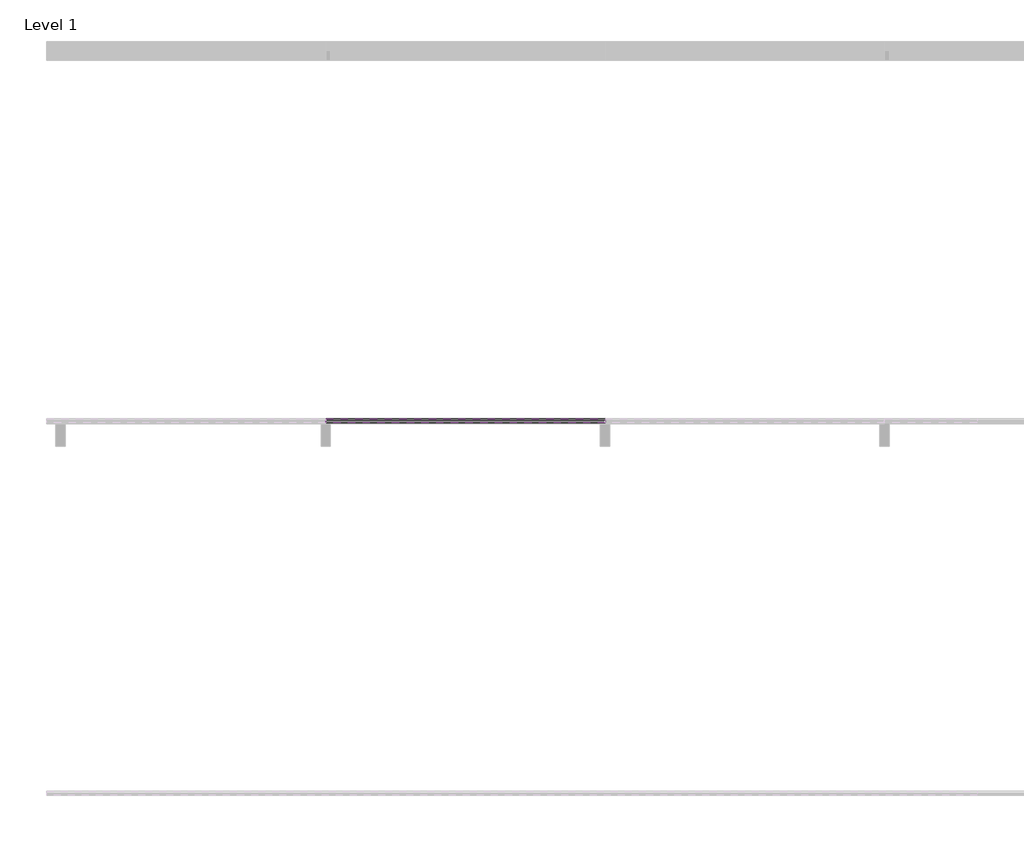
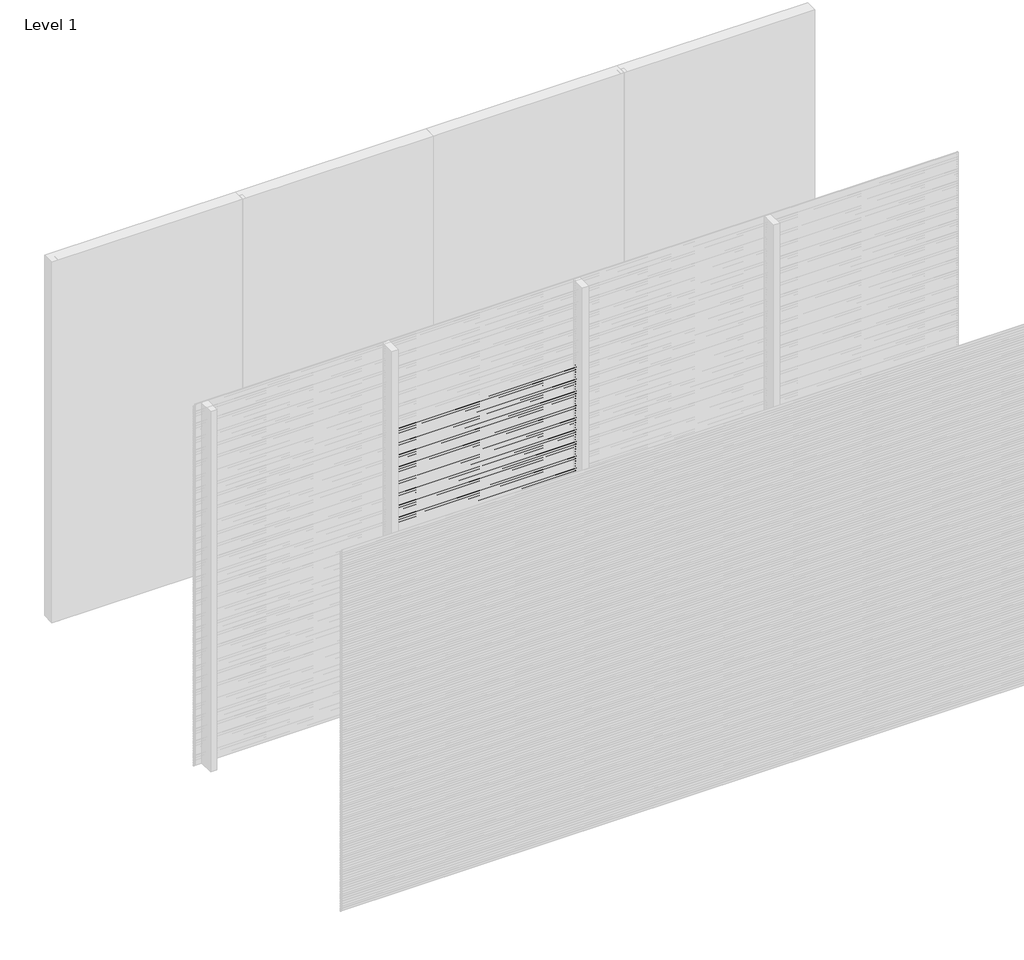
# One storey, part 5 of 31: 97 proxies.
"""IFC4 building model written with IfcOpenShell, lengths in millimetres."""

from ifc_helpers import new_model, si_unit, frame, origin, place, context, project, spatial, polyline, outline, extrude, element, save

model = new_model("IFC4")

# Units and contexts
model_context = context("Model", 3, world=origin())
ifc_project = project(units=[si_unit("LENGTHUNIT", "METRE", prefix="MILLI")], contexts=[model_context])

# Site, building, storey
site = spatial("IfcSite", under=ifc_project)
building = spatial("IfcBuilding", under=site)
storey = spatial("IfcBuildingStorey", under=building, Name="Level 1", Elevation=0.0)

# Proxies
placement = place(None, origin())
element("IfcBuildingElementProxy", 1, Name="Wall Sweeps", at=placement, inside=storey, context=model_context, shape_type="SweptSolid", body=[
    extrude(outline(polyline([(-17995.0, 2300.0), (-17995.0, 2288.942893), (-17976.0, 2273.0), (-17976.0, 2260.0), (-17997.0, 2277.6210923), (-17997.0, 2300.0), (-17995.0, 2300.0)])), frame((1500.0000002, 0.0, 0.0), z_axis=(1.0, 0.0, 0.0), x_axis=(0.0, 1.0, 0.0)), (0.0, 0.0, 1.0), 1499.9999998),
])
element("IfcBuildingElementProxy", 2, Name="Wall Sweeps", at=placement, inside=storey, context=model_context, shape_type="SweptSolid", body=[
    extrude(outline(polyline([(-17995.0, 2280.0), (-17995.0, 2268.942893), (-17976.0, 2253.0), (-17976.0, 2240.0), (-17997.0, 2257.6210923), (-17997.0, 2280.0), (-17995.0, 2280.0)])), frame((1500.0000002, 0.0, 0.0), z_axis=(1.0, 0.0, 0.0), x_axis=(0.0, 1.0, 0.0)), (0.0, 0.0, 1.0), 1499.9999998),
])
element("IfcBuildingElementProxy", 3, Name="Wall Sweeps", at=placement, inside=storey, context=model_context, shape_type="SweptSolid", body=[
    extrude(outline(polyline([(-17995.0, 2260.0), (-17995.0, 2248.942893), (-17976.0, 2233.0), (-17976.0, 2220.0), (-17997.0, 2237.6210923), (-17997.0, 2260.0), (-17995.0, 2260.0)])), frame((1500.0000002, 0.0, 0.0), z_axis=(1.0, 0.0, 0.0), x_axis=(0.0, 1.0, 0.0)), (0.0, 0.0, 1.0), 1499.9999998),
])
element("IfcBuildingElementProxy", 4, Name="Wall Sweeps", at=placement, inside=storey, context=model_context, shape_type="SweptSolid", body=[
    extrude(outline(polyline([(-17995.0, 2240.0), (-17995.0, 2228.942893), (-17976.0, 2213.0), (-17976.0, 2200.0), (-17997.0, 2217.6210923), (-17997.0, 2240.0), (-17995.0, 2240.0)])), frame((1500.0000002, 0.0, 0.0), z_axis=(1.0, 0.0, 0.0), x_axis=(0.0, 1.0, 0.0)), (0.0, 0.0, 1.0), 1499.9999998),
])
element("IfcBuildingElementProxy", 5, Name="Wall Sweeps", at=placement, inside=storey, context=model_context, shape_type="SweptSolid", body=[
    extrude(outline(polyline([(-17995.0, 2220.0), (-17995.0, 2208.942893), (-17976.0, 2193.0), (-17976.0, 2180.0), (-17997.0, 2197.6210923), (-17997.0, 2220.0), (-17995.0, 2220.0)])), frame((1500.0000002, 0.0, 0.0), z_axis=(1.0, 0.0, 0.0), x_axis=(0.0, 1.0, 0.0)), (0.0, 0.0, 1.0), 1499.9999998),
])
element("IfcBuildingElementProxy", 6, Name="Wall Sweeps", at=placement, inside=storey, context=model_context, shape_type="SweptSolid", body=[
    extrude(outline(polyline([(-17995.0, 2200.0), (-17995.0, 2188.942893), (-17976.0, 2173.0), (-17976.0, 2160.0), (-17997.0, 2177.6210923), (-17997.0, 2200.0), (-17995.0, 2200.0)])), frame((1500.0000002, 0.0, 0.0), z_axis=(1.0, 0.0, 0.0), x_axis=(0.0, 1.0, 0.0)), (0.0, 0.0, 1.0), 1499.9999998),
])
element("IfcBuildingElementProxy", 7, Name="Wall Sweeps", at=placement, inside=storey, context=model_context, shape_type="SweptSolid", body=[
    extrude(outline(polyline([(-17995.0, 2180.0), (-17995.0, 2168.942893), (-17976.0, 2153.0), (-17976.0, 2140.0), (-17997.0, 2157.6210923), (-17997.0, 2180.0), (-17995.0, 2180.0)])), frame((1500.0000002, 0.0, 0.0), z_axis=(1.0, 0.0, 0.0), x_axis=(0.0, 1.0, 0.0)), (0.0, 0.0, 1.0), 1499.9999998),
])
element("IfcBuildingElementProxy", 8, Name="Wall Sweeps", at=placement, inside=storey, context=model_context, shape_type="SweptSolid", body=[
    extrude(outline(polyline([(-17995.0, 2160.0), (-17995.0, 2148.942893), (-17976.0, 2133.0), (-17976.0, 2120.0), (-17997.0, 2137.6210923), (-17997.0, 2160.0), (-17995.0, 2160.0)])), frame((1500.0000002, 0.0, 0.0), z_axis=(1.0, 0.0, 0.0), x_axis=(0.0, 1.0, 0.0)), (0.0, 0.0, 1.0), 1499.9999998),
])
element("IfcBuildingElementProxy", 9, Name="Wall Sweeps", at=placement, inside=storey, context=model_context, shape_type="SweptSolid", body=[
    extrude(outline(polyline([(-17995.0, 2140.0), (-17995.0, 2128.942893), (-17976.0, 2113.0), (-17976.0, 2100.0), (-17997.0, 2117.6210923), (-17997.0, 2140.0), (-17995.0, 2140.0)])), frame((1500.0000002, 0.0, 0.0), z_axis=(1.0, 0.0, 0.0), x_axis=(0.0, 1.0, 0.0)), (0.0, 0.0, 1.0), 1499.9999998),
])
element("IfcBuildingElementProxy", 10, Name="Wall Sweeps", at=placement, inside=storey, context=model_context, shape_type="SweptSolid", body=[
    extrude(outline(polyline([(-17995.0, 2120.0), (-17995.0, 2108.942893), (-17976.0, 2093.0), (-17976.0, 2080.0), (-17997.0, 2097.6210923), (-17997.0, 2120.0), (-17995.0, 2120.0)])), frame((1500.0000002, 0.0, 0.0), z_axis=(1.0, 0.0, 0.0), x_axis=(0.0, 1.0, 0.0)), (0.0, 0.0, 1.0), 1499.9999998),
])
element("IfcBuildingElementProxy", 11, Name="Wall Sweeps", at=placement, inside=storey, context=model_context, shape_type="SweptSolid", body=[
    extrude(outline(polyline([(-17995.0, 2100.0), (-17995.0, 2088.942893), (-17976.0, 2073.0), (-17976.0, 2060.0), (-17997.0, 2077.6210923), (-17997.0, 2100.0), (-17995.0, 2100.0)])), frame((1500.0000002, 0.0, 0.0), z_axis=(1.0, 0.0, 0.0), x_axis=(0.0, 1.0, 0.0)), (0.0, 0.0, 1.0), 1499.9999998),
])
element("IfcBuildingElementProxy", 12, Name="Wall Sweeps", at=placement, inside=storey, context=model_context, shape_type="SweptSolid", body=[
    extrude(outline(polyline([(-17995.0, 2080.0), (-17995.0, 2068.942893), (-17976.0, 2053.0), (-17976.0, 2040.0), (-17997.0, 2057.6210923), (-17997.0, 2080.0), (-17995.0, 2080.0)])), frame((1500.0000002, 0.0, 0.0), z_axis=(1.0, 0.0, 0.0), x_axis=(0.0, 1.0, 0.0)), (0.0, 0.0, 1.0), 1499.9999998),
])
element("IfcBuildingElementProxy", 13, Name="Wall Sweeps", at=placement, inside=storey, context=model_context, shape_type="SweptSolid", body=[
    extrude(outline(polyline([(-17995.0, 2060.0), (-17995.0, 2048.942893), (-17976.0, 2033.0), (-17976.0, 2020.0), (-17997.0, 2037.6210923), (-17997.0, 2060.0), (-17995.0, 2060.0)])), frame((1500.0000002, 0.0, 0.0), z_axis=(1.0, 0.0, 0.0), x_axis=(0.0, 1.0, 0.0)), (0.0, 0.0, 1.0), 1499.9999998),
])
element("IfcBuildingElementProxy", 14, Name="Wall Sweeps", at=placement, inside=storey, context=model_context, shape_type="SweptSolid", body=[
    extrude(outline(polyline([(-17995.0, 2040.0), (-17995.0, 2028.942893), (-17976.0, 2013.0), (-17976.0, 2000.0), (-17997.0, 2017.6210923), (-17997.0, 2040.0), (-17995.0, 2040.0)])), frame((1500.0000002, 0.0, 0.0), z_axis=(1.0, 0.0, 0.0), x_axis=(0.0, 1.0, 0.0)), (0.0, 0.0, 1.0), 1499.9999998),
])
element("IfcBuildingElementProxy", 15, Name="Wall Sweeps", at=placement, inside=storey, context=model_context, shape_type="SweptSolid", body=[
    extrude(outline(polyline([(-17995.0, 2020.0), (-17995.0, 2008.942893), (-17976.0, 1993.0), (-17976.0, 1980.0), (-17997.0, 1997.6210923), (-17997.0, 2020.0), (-17995.0, 2020.0)])), frame((1500.0000002, 0.0, 0.0), z_axis=(1.0, 0.0, 0.0), x_axis=(0.0, 1.0, 0.0)), (0.0, 0.0, 1.0), 1499.9999998),
])
element("IfcBuildingElementProxy", 16, Name="Wall Sweeps", at=placement, inside=storey, context=model_context, shape_type="SweptSolid", body=[
    extrude(outline(polyline([(-17995.0, 2000.0), (-17995.0, 1988.942893), (-17976.0, 1973.0), (-17976.0, 1960.0), (-17997.0, 1977.6210923), (-17997.0, 2000.0), (-17995.0, 2000.0)])), frame((1500.0000002, 0.0, 0.0), z_axis=(1.0, 0.0, 0.0), x_axis=(0.0, 1.0, 0.0)), (0.0, 0.0, 1.0), 1499.9999998),
])
element("IfcBuildingElementProxy", 17, Name="Wall Sweeps", at=placement, inside=storey, context=model_context, shape_type="SweptSolid", body=[
    extrude(outline(polyline([(-17995.0, 1980.0), (-17995.0, 1968.942893), (-17976.0, 1953.0), (-17976.0, 1940.0), (-17997.0, 1957.6210923), (-17997.0, 1980.0), (-17995.0, 1980.0)])), frame((1500.0000002, 0.0, 0.0), z_axis=(1.0, 0.0, 0.0), x_axis=(0.0, 1.0, 0.0)), (0.0, 0.0, 1.0), 1499.9999998),
])
element("IfcBuildingElementProxy", 18, Name="Wall Sweeps", at=placement, inside=storey, context=model_context, shape_type="SweptSolid", body=[
    extrude(outline(polyline([(-17995.0, 1960.0), (-17995.0, 1948.942893), (-17976.0, 1933.0), (-17976.0, 1920.0), (-17997.0, 1937.6210923), (-17997.0, 1960.0), (-17995.0, 1960.0)])), frame((1500.0000002, 0.0, 0.0), z_axis=(1.0, 0.0, 0.0), x_axis=(0.0, 1.0, 0.0)), (0.0, 0.0, 1.0), 1499.9999998),
])
element("IfcBuildingElementProxy", 19, Name="Wall Sweeps", at=placement, inside=storey, context=model_context, shape_type="SweptSolid", body=[
    extrude(outline(polyline([(-17995.0, 1940.0), (-17995.0, 1928.942893), (-17976.0, 1913.0), (-17976.0, 1900.0), (-17997.0, 1917.6210923), (-17997.0, 1940.0), (-17995.0, 1940.0)])), frame((1500.0000002, 0.0, 0.0), z_axis=(1.0, 0.0, 0.0), x_axis=(0.0, 1.0, 0.0)), (0.0, 0.0, 1.0), 1499.9999998),
])
element("IfcBuildingElementProxy", 20, Name="Wall Sweeps", at=placement, inside=storey, context=model_context, shape_type="SweptSolid", body=[
    extrude(outline(polyline([(-17995.0, 1920.0), (-17995.0, 1908.942893), (-17976.0, 1893.0), (-17976.0, 1880.0), (-17997.0, 1897.6210923), (-17997.0, 1920.0), (-17995.0, 1920.0)])), frame((1500.0000002, 0.0, 0.0), z_axis=(1.0, 0.0, 0.0), x_axis=(0.0, 1.0, 0.0)), (0.0, 0.0, 1.0), 1499.9999998),
])
element("IfcBuildingElementProxy", 21, Name="Wall Sweeps", at=placement, inside=storey, context=model_context, shape_type="SweptSolid", body=[
    extrude(outline(polyline([(-17995.0, 1900.0), (-17995.0, 1888.942893), (-17976.0, 1873.0), (-17976.0, 1860.0), (-17997.0, 1877.6210923), (-17997.0, 1900.0), (-17995.0, 1900.0)])), frame((1500.0000002, 0.0, 0.0), z_axis=(1.0, 0.0, 0.0), x_axis=(0.0, 1.0, 0.0)), (0.0, 0.0, 1.0), 1499.9999998),
])
element("IfcBuildingElementProxy", 22, Name="Wall Sweeps", at=placement, inside=storey, context=model_context, shape_type="SweptSolid", body=[
    extrude(outline(polyline([(-17995.0, 1880.0), (-17995.0, 1868.942893), (-17976.0, 1853.0), (-17976.0, 1840.0), (-17997.0, 1857.6210923), (-17997.0, 1880.0), (-17995.0, 1880.0)])), frame((1500.0000002, 0.0, 0.0), z_axis=(1.0, 0.0, 0.0), x_axis=(0.0, 1.0, 0.0)), (0.0, 0.0, 1.0), 1499.9999998),
])
element("IfcBuildingElementProxy", 23, Name="Wall Sweeps", at=placement, inside=storey, context=model_context, shape_type="SweptSolid", body=[
    extrude(outline(polyline([(-17995.0, 1860.0), (-17995.0, 1848.942893), (-17976.0, 1833.0), (-17976.0, 1820.0), (-17997.0, 1837.6210923), (-17997.0, 1860.0), (-17995.0, 1860.0)])), frame((1500.0000002, 0.0, 0.0), z_axis=(1.0, 0.0, 0.0), x_axis=(0.0, 1.0, 0.0)), (0.0, 0.0, 1.0), 1499.9999998),
])
element("IfcBuildingElementProxy", 24, Name="Wall Sweeps", at=placement, inside=storey, context=model_context, shape_type="SweptSolid", body=[
    extrude(outline(polyline([(-17995.0, 1840.0), (-17995.0, 1828.942893), (-17976.0, 1813.0), (-17976.0, 1800.0), (-17997.0, 1817.6210923), (-17997.0, 1840.0), (-17995.0, 1840.0)])), frame((1500.0000002, 0.0, 0.0), z_axis=(1.0, 0.0, 0.0), x_axis=(0.0, 1.0, 0.0)), (0.0, 0.0, 1.0), 1499.9999998),
])
element("IfcBuildingElementProxy", 25, Name="Wall Sweeps", at=placement, inside=storey, context=model_context, shape_type="SweptSolid", body=[
    extrude(outline(polyline([(-17995.0, 1820.0), (-17995.0, 1808.942893), (-17976.0, 1793.0), (-17976.0, 1780.0), (-17997.0, 1797.6210923), (-17997.0, 1820.0), (-17995.0, 1820.0)])), frame((1500.0000002, 0.0, 0.0), z_axis=(1.0, 0.0, 0.0), x_axis=(0.0, 1.0, 0.0)), (0.0, 0.0, 1.0), 1499.9999998),
])
element("IfcBuildingElementProxy", 26, Name="Wall Sweeps", at=placement, inside=storey, context=model_context, shape_type="SweptSolid", body=[
    extrude(outline(polyline([(-17995.0, 1800.0), (-17995.0, 1788.942893), (-17976.0, 1773.0), (-17976.0, 1760.0), (-17997.0, 1777.6210923), (-17997.0, 1800.0), (-17995.0, 1800.0)])), frame((1500.0000002, 0.0, 0.0), z_axis=(1.0, 0.0, 0.0), x_axis=(0.0, 1.0, 0.0)), (0.0, 0.0, 1.0), 1499.9999998),
])
element("IfcBuildingElementProxy", 27, Name="Wall Sweeps", at=placement, inside=storey, context=model_context, shape_type="SweptSolid", body=[
    extrude(outline(polyline([(-17995.0, 1780.0), (-17995.0, 1768.942893), (-17976.0, 1753.0), (-17976.0, 1740.0), (-17997.0, 1757.6210923), (-17997.0, 1780.0), (-17995.0, 1780.0)])), frame((1500.0000002, 0.0, 0.0), z_axis=(1.0, 0.0, 0.0), x_axis=(0.0, 1.0, 0.0)), (0.0, 0.0, 1.0), 1499.9999998),
])
element("IfcBuildingElementProxy", 28, Name="Wall Sweeps", at=placement, inside=storey, context=model_context, shape_type="SweptSolid", body=[
    extrude(outline(polyline([(-17995.0, 1760.0), (-17995.0, 1748.942893), (-17976.0, 1733.0), (-17976.0, 1720.0), (-17997.0, 1737.6210923), (-17997.0, 1760.0), (-17995.0, 1760.0)])), frame((1500.0000002, 0.0, 0.0), z_axis=(1.0, 0.0, 0.0), x_axis=(0.0, 1.0, 0.0)), (0.0, 0.0, 1.0), 1499.9999998),
])
element("IfcBuildingElementProxy", 29, Name="Wall Sweeps", at=placement, inside=storey, context=model_context, shape_type="SweptSolid", body=[
    extrude(outline(polyline([(-17995.0, 1740.0), (-17995.0, 1728.942893), (-17976.0, 1713.0), (-17976.0, 1700.0), (-17997.0, 1717.6210923), (-17997.0, 1740.0), (-17995.0, 1740.0)])), frame((1500.0000002, 0.0, 0.0), z_axis=(1.0, 0.0, 0.0), x_axis=(0.0, 1.0, 0.0)), (0.0, 0.0, 1.0), 1499.9999998),
])
element("IfcBuildingElementProxy", 30, Name="Wall Sweeps", at=placement, inside=storey, context=model_context, shape_type="SweptSolid", body=[
    extrude(outline(polyline([(-17995.0, 1720.0), (-17995.0, 1708.942893), (-17976.0, 1693.0), (-17976.0, 1680.0), (-17997.0, 1697.6210923), (-17997.0, 1720.0), (-17995.0, 1720.0)])), frame((1500.0000002, 0.0, 0.0), z_axis=(1.0, 0.0, 0.0), x_axis=(0.0, 1.0, 0.0)), (0.0, 0.0, 1.0), 1499.9999998),
])
element("IfcBuildingElementProxy", 31, Name="Wall Sweeps", at=placement, inside=storey, context=model_context, shape_type="SweptSolid", body=[
    extrude(outline(polyline([(-17995.0, 1700.0), (-17995.0, 1688.942893), (-17976.0, 1673.0), (-17976.0, 1660.0), (-17997.0, 1677.6210923), (-17997.0, 1700.0), (-17995.0, 1700.0)])), frame((1500.0000002, 0.0, 0.0), z_axis=(1.0, 0.0, 0.0), x_axis=(0.0, 1.0, 0.0)), (0.0, 0.0, 1.0), 1499.9999998),
])
element("IfcBuildingElementProxy", 32, Name="Wall Sweeps", at=placement, inside=storey, context=model_context, shape_type="SweptSolid", body=[
    extrude(outline(polyline([(-17995.0, 1680.0), (-17995.0, 1668.942893), (-17976.0, 1653.0), (-17976.0, 1640.0), (-17997.0, 1657.6210923), (-17997.0, 1680.0), (-17995.0, 1680.0)])), frame((1500.0000002, 0.0, 0.0), z_axis=(1.0, 0.0, 0.0), x_axis=(0.0, 1.0, 0.0)), (0.0, 0.0, 1.0), 1499.9999998),
])
element("IfcBuildingElementProxy", 33, Name="Wall Sweeps", at=placement, inside=storey, context=model_context, shape_type="SweptSolid", body=[
    extrude(outline(polyline([(-17995.0, 1660.0), (-17995.0, 1648.942893), (-17976.0, 1633.0), (-17976.0, 1620.0), (-17997.0, 1637.6210923), (-17997.0, 1660.0), (-17995.0, 1660.0)])), frame((1500.0000002, 0.0, 0.0), z_axis=(1.0, 0.0, 0.0), x_axis=(0.0, 1.0, 0.0)), (0.0, 0.0, 1.0), 1499.9999998),
])
element("IfcBuildingElementProxy", 34, Name="Wall Sweeps", at=placement, inside=storey, context=model_context, shape_type="SweptSolid", body=[
    extrude(outline(polyline([(-17995.0, 1640.0), (-17995.0, 1628.942893), (-17976.0, 1613.0), (-17976.0, 1600.0), (-17997.0, 1617.6210923), (-17997.0, 1640.0), (-17995.0, 1640.0)])), frame((1500.0000002, 0.0, 0.0), z_axis=(1.0, 0.0, 0.0), x_axis=(0.0, 1.0, 0.0)), (0.0, 0.0, 1.0), 1499.9999998),
])
element("IfcBuildingElementProxy", 35, Name="Wall Sweeps", at=placement, inside=storey, context=model_context, shape_type="SweptSolid", body=[
    extrude(outline(polyline([(-17995.0, 1620.0), (-17995.0, 1608.942893), (-17976.0, 1593.0), (-17976.0, 1580.0), (-17997.0, 1597.6210923), (-17997.0, 1620.0), (-17995.0, 1620.0)])), frame((1500.0000002, 0.0, 0.0), z_axis=(1.0, 0.0, 0.0), x_axis=(0.0, 1.0, 0.0)), (0.0, 0.0, 1.0), 1499.9999998),
])
element("IfcBuildingElementProxy", 36, Name="Wall Sweeps", at=placement, inside=storey, context=model_context, shape_type="SweptSolid", body=[
    extrude(outline(polyline([(-17995.0, 1600.0), (-17995.0, 1588.942893), (-17976.0, 1573.0), (-17976.0, 1560.0), (-17997.0, 1577.6210923), (-17997.0, 1600.0), (-17995.0, 1600.0)])), frame((1500.0000002, 0.0, 0.0), z_axis=(1.0, 0.0, 0.0), x_axis=(0.0, 1.0, 0.0)), (0.0, 0.0, 1.0), 1499.9999998),
])
element("IfcBuildingElementProxy", 37, Name="Wall Sweeps", at=placement, inside=storey, context=model_context, shape_type="SweptSolid", body=[
    extrude(outline(polyline([(-17995.0, 1580.0), (-17995.0, 1568.942893), (-17976.0, 1553.0), (-17976.0, 1540.0), (-17997.0, 1557.6210923), (-17997.0, 1580.0), (-17995.0, 1580.0)])), frame((1500.0000002, 0.0, 0.0), z_axis=(1.0, 0.0, 0.0), x_axis=(0.0, 1.0, 0.0)), (0.0, 0.0, 1.0), 1499.9999998),
])
element("IfcBuildingElementProxy", 38, Name="Wall Sweeps", at=placement, inside=storey, context=model_context, shape_type="SweptSolid", body=[
    extrude(outline(polyline([(-17995.0, 1560.0), (-17995.0, 1548.942893), (-17976.0, 1533.0), (-17976.0, 1520.0), (-17997.0, 1537.6210923), (-17997.0, 1560.0), (-17995.0, 1560.0)])), frame((1500.0000002, 0.0, 0.0), z_axis=(1.0, 0.0, 0.0), x_axis=(0.0, 1.0, 0.0)), (0.0, 0.0, 1.0), 1499.9999998),
])
element("IfcBuildingElementProxy", 39, Name="Wall Sweeps", at=placement, inside=storey, context=model_context, shape_type="SweptSolid", body=[
    extrude(outline(polyline([(-17995.0, 1540.0), (-17995.0, 1528.942893), (-17976.0, 1513.0), (-17976.0, 1500.0), (-17997.0, 1517.6210923), (-17997.0, 1540.0), (-17995.0, 1540.0)])), frame((1500.0000002, 0.0, 0.0), z_axis=(1.0, 0.0, 0.0), x_axis=(0.0, 1.0, 0.0)), (0.0, 0.0, 1.0), 1499.9999998),
])
element("IfcBuildingElementProxy", 40, Name="Wall Sweeps", at=placement, inside=storey, context=model_context, shape_type="SweptSolid", body=[
    extrude(outline(polyline([(-17995.0, 1520.0), (-17995.0, 1508.942893), (-17976.0, 1493.0), (-17976.0, 1480.0), (-17997.0, 1497.6210923), (-17997.0, 1520.0), (-17995.0, 1520.0)])), frame((1500.0000002, 0.0, 0.0), z_axis=(1.0, 0.0, 0.0), x_axis=(0.0, 1.0, 0.0)), (0.0, 0.0, 1.0), 1499.9999998),
])
element("IfcBuildingElementProxy", 41, Name="Wall Sweeps", at=placement, inside=storey, context=model_context, shape_type="SweptSolid", body=[
    extrude(outline(polyline([(-17995.0, 1500.0), (-17995.0, 1488.942893), (-17976.0, 1473.0), (-17976.0, 1460.0), (-17997.0, 1477.6210923), (-17997.0, 1500.0), (-17995.0, 1500.0)])), frame((1500.0000002, 0.0, 0.0), z_axis=(1.0, 0.0, 0.0), x_axis=(0.0, 1.0, 0.0)), (0.0, 0.0, 1.0), 1499.9999998),
])
element("IfcBuildingElementProxy", 42, Name="Wall Sweeps", at=placement, inside=storey, context=model_context, shape_type="SweptSolid", body=[
    extrude(outline(polyline([(-17995.0, 1480.0), (-17995.0, 1468.942893), (-17976.0, 1453.0), (-17976.0, 1440.0), (-17997.0, 1457.6210923), (-17997.0, 1480.0), (-17995.0, 1480.0)])), frame((1500.0000002, 0.0, 0.0), z_axis=(1.0, 0.0, 0.0), x_axis=(0.0, 1.0, 0.0)), (0.0, 0.0, 1.0), 1499.9999998),
])
element("IfcBuildingElementProxy", 43, Name="Wall Sweeps", at=placement, inside=storey, context=model_context, shape_type="SweptSolid", body=[
    extrude(outline(polyline([(-17995.0, 1460.0), (-17995.0, 1448.942893), (-17976.0, 1433.0), (-17976.0, 1420.0), (-17997.0, 1437.6210923), (-17997.0, 1460.0), (-17995.0, 1460.0)])), frame((1500.0000002, 0.0, 0.0), z_axis=(1.0, 0.0, 0.0), x_axis=(0.0, 1.0, 0.0)), (0.0, 0.0, 1.0), 1499.9999998),
])
element("IfcBuildingElementProxy", 44, Name="Wall Sweeps", at=placement, inside=storey, context=model_context, shape_type="SweptSolid", body=[
    extrude(outline(polyline([(-17995.0, 1440.0), (-17995.0, 1428.942893), (-17976.0, 1413.0), (-17976.0, 1400.0), (-17997.0, 1417.6210923), (-17997.0, 1440.0), (-17995.0, 1440.0)])), frame((1500.0000002, 0.0, 0.0), z_axis=(1.0, 0.0, 0.0), x_axis=(0.0, 1.0, 0.0)), (0.0, 0.0, 1.0), 1499.9999998),
])
element("IfcBuildingElementProxy", 45, Name="Wall Sweeps", at=placement, inside=storey, context=model_context, shape_type="SweptSolid", body=[
    extrude(outline(polyline([(-17995.0, 1420.0), (-17995.0, 1408.942893), (-17976.0, 1393.0), (-17976.0, 1380.0), (-17997.0, 1397.6210923), (-17997.0, 1420.0), (-17995.0, 1420.0)])), frame((1500.0000002, 0.0, 0.0), z_axis=(1.0, 0.0, 0.0), x_axis=(0.0, 1.0, 0.0)), (0.0, 0.0, 1.0), 1499.9999998),
])
element("IfcBuildingElementProxy", 46, Name="Wall Sweeps", at=placement, inside=storey, context=model_context, shape_type="SweptSolid", body=[
    extrude(outline(polyline([(-17995.0, 1400.0), (-17995.0, 1388.942893), (-17976.0, 1373.0), (-17976.0, 1360.0), (-17997.0, 1377.6210923), (-17997.0, 1400.0), (-17995.0, 1400.0)])), frame((1500.0000002, 0.0, 0.0), z_axis=(1.0, 0.0, 0.0), x_axis=(0.0, 1.0, 0.0)), (0.0, 0.0, 1.0), 1499.9999998),
])
element("IfcBuildingElementProxy", 47, Name="Wall Sweeps", at=placement, inside=storey, context=model_context, shape_type="SweptSolid", body=[
    extrude(outline(polyline([(-17995.0, 1380.0), (-17995.0, 1368.942893), (-17976.0, 1353.0), (-17976.0, 1340.0), (-17997.0, 1357.6210923), (-17997.0, 1380.0), (-17995.0, 1380.0)])), frame((1500.0000002, 0.0, 0.0), z_axis=(1.0, 0.0, 0.0), x_axis=(0.0, 1.0, 0.0)), (0.0, 0.0, 1.0), 1499.9999998),
])
element("IfcBuildingElementProxy", 48, Name="Wall Sweeps", at=placement, inside=storey, context=model_context, shape_type="SweptSolid", body=[
    extrude(outline(polyline([(-17995.0, 1360.0), (-17995.0, 1348.942893), (-17976.0, 1333.0), (-17976.0, 1320.0), (-17997.0, 1337.6210923), (-17997.0, 1360.0), (-17995.0, 1360.0)])), frame((1500.0000002, 0.0, 0.0), z_axis=(1.0, 0.0, 0.0), x_axis=(0.0, 1.0, 0.0)), (0.0, 0.0, 1.0), 1499.9999998),
])
element("IfcBuildingElementProxy", 49, Name="Wall Sweeps", at=placement, inside=storey, context=model_context, shape_type="SweptSolid", body=[
    extrude(outline(polyline([(-17995.0, 1340.0), (-17995.0, 1328.942893), (-17976.0, 1313.0), (-17976.0, 1300.0), (-17997.0, 1317.6210923), (-17997.0, 1340.0), (-17995.0, 1340.0)])), frame((1500.0000002, 0.0, 0.0), z_axis=(1.0, 0.0, 0.0), x_axis=(0.0, 1.0, 0.0)), (0.0, 0.0, 1.0), 1499.9999998),
])
element("IfcBuildingElementProxy", 50, Name="Wall Sweeps", at=placement, inside=storey, context=model_context, shape_type="SweptSolid", body=[
    extrude(outline(polyline([(-17995.0, 1320.0), (-17995.0, 1308.942893), (-17976.0, 1293.0), (-17976.0, 1280.0), (-17997.0, 1297.6210923), (-17997.0, 1320.0), (-17995.0, 1320.0)])), frame((1500.0000002, 0.0, 0.0), z_axis=(1.0, 0.0, 0.0), x_axis=(0.0, 1.0, 0.0)), (0.0, 0.0, 1.0), 1499.9999998),
])
element("IfcBuildingElementProxy", 51, Name="Wall Sweeps", at=placement, inside=storey, context=model_context, shape_type="SweptSolid", body=[
    extrude(outline(polyline([(-17995.0, 1300.0), (-17995.0, 1288.942893), (-17976.0, 1273.0), (-17976.0, 1260.0), (-17997.0, 1277.6210923), (-17997.0, 1300.0), (-17995.0, 1300.0)])), frame((1500.0000002, 0.0, 0.0), z_axis=(1.0, 0.0, 0.0), x_axis=(0.0, 1.0, 0.0)), (0.0, 0.0, 1.0), 1499.9999998),
])
element("IfcBuildingElementProxy", 52, Name="Wall Sweeps", at=placement, inside=storey, context=model_context, shape_type="SweptSolid", body=[
    extrude(outline(polyline([(-17995.0, 1280.0), (-17995.0, 1268.942893), (-17976.0, 1253.0), (-17976.0, 1240.0), (-17997.0, 1257.6210923), (-17997.0, 1280.0), (-17995.0, 1280.0)])), frame((1500.0000002, 0.0, 0.0), z_axis=(1.0, 0.0, 0.0), x_axis=(0.0, 1.0, 0.0)), (0.0, 0.0, 1.0), 1499.9999998),
])
element("IfcBuildingElementProxy", 53, Name="Wall Sweeps", at=placement, inside=storey, context=model_context, shape_type="SweptSolid", body=[
    extrude(outline(polyline([(-17995.0, 1260.0), (-17995.0, 1248.942893), (-17976.0, 1233.0), (-17976.0, 1220.0), (-17997.0, 1237.6210923), (-17997.0, 1260.0), (-17995.0, 1260.0)])), frame((1500.0000002, 0.0, 0.0), z_axis=(1.0, 0.0, 0.0), x_axis=(0.0, 1.0, 0.0)), (0.0, 0.0, 1.0), 1499.9999998),
])
element("IfcBuildingElementProxy", 54, Name="Wall Sweeps", at=placement, inside=storey, context=model_context, shape_type="SweptSolid", body=[
    extrude(outline(polyline([(-17995.0, 1240.0), (-17995.0, 1228.942893), (-17976.0, 1213.0), (-17976.0, 1200.0), (-17997.0, 1217.6210923), (-17997.0, 1240.0), (-17995.0, 1240.0)])), frame((1500.0000002, 0.0, 0.0), z_axis=(1.0, 0.0, 0.0), x_axis=(0.0, 1.0, 0.0)), (0.0, 0.0, 1.0), 1499.9999998),
])
element("IfcBuildingElementProxy", 55, Name="Wall Sweeps", at=placement, inside=storey, context=model_context, shape_type="SweptSolid", body=[
    extrude(outline(polyline([(-17995.0, 1220.0), (-17995.0, 1208.942893), (-17976.0, 1193.0), (-17976.0, 1180.0), (-17997.0, 1197.6210923), (-17997.0, 1220.0), (-17995.0, 1220.0)])), frame((1500.0000002, 0.0, 0.0), z_axis=(1.0, 0.0, 0.0), x_axis=(0.0, 1.0, 0.0)), (0.0, 0.0, 1.0), 1499.9999998),
])
element("IfcBuildingElementProxy", 56, Name="Wall Sweeps", at=placement, inside=storey, context=model_context, shape_type="SweptSolid", body=[
    extrude(outline(polyline([(-17995.0, 1200.0), (-17995.0, 1188.942893), (-17976.0, 1173.0), (-17976.0, 1160.0), (-17997.0, 1177.6210923), (-17997.0, 1200.0), (-17995.0, 1200.0)])), frame((1500.0000002, 0.0, 0.0), z_axis=(1.0, 0.0, 0.0), x_axis=(0.0, 1.0, 0.0)), (0.0, 0.0, 1.0), 1499.9999998),
])
element("IfcBuildingElementProxy", 57, Name="Wall Sweeps", at=placement, inside=storey, context=model_context, shape_type="SweptSolid", body=[
    extrude(outline(polyline([(-17995.0, 1180.0), (-17995.0, 1168.942893), (-17976.0, 1153.0), (-17976.0, 1140.0), (-17997.0, 1157.6210923), (-17997.0, 1180.0), (-17995.0, 1180.0)])), frame((1500.0000002, 0.0, 0.0), z_axis=(1.0, 0.0, 0.0), x_axis=(0.0, 1.0, 0.0)), (0.0, 0.0, 1.0), 1499.9999998),
])
element("IfcBuildingElementProxy", 58, Name="Wall Sweeps", at=placement, inside=storey, context=model_context, shape_type="SweptSolid", body=[
    extrude(outline(polyline([(-17995.0, 1160.0), (-17995.0, 1148.942893), (-17976.0, 1133.0), (-17976.0, 1120.0), (-17997.0, 1137.6210923), (-17997.0, 1160.0), (-17995.0, 1160.0)])), frame((1500.0000002, 0.0, 0.0), z_axis=(1.0, 0.0, 0.0), x_axis=(0.0, 1.0, 0.0)), (0.0, 0.0, 1.0), 1499.9999998),
])
element("IfcBuildingElementProxy", 59, Name="Wall Sweeps", at=placement, inside=storey, context=model_context, shape_type="SweptSolid", body=[
    extrude(outline(polyline([(-17995.0, 1140.0), (-17995.0, 1128.942893), (-17976.0, 1113.0), (-17976.0, 1100.0), (-17997.0, 1117.6210923), (-17997.0, 1140.0), (-17995.0, 1140.0)])), frame((1500.0000002, 0.0, 0.0), z_axis=(1.0, 0.0, 0.0), x_axis=(0.0, 1.0, 0.0)), (0.0, 0.0, 1.0), 1499.9999998),
])
element("IfcBuildingElementProxy", 60, Name="Wall Sweeps", at=placement, inside=storey, context=model_context, shape_type="SweptSolid", body=[
    extrude(outline(polyline([(-17995.0, 1120.0), (-17995.0, 1108.942893), (-17976.0, 1093.0), (-17976.0, 1080.0), (-17997.0, 1097.6210923), (-17997.0, 1120.0), (-17995.0, 1120.0)])), frame((1500.0000002, 0.0, 0.0), z_axis=(1.0, 0.0, 0.0), x_axis=(0.0, 1.0, 0.0)), (0.0, 0.0, 1.0), 1499.9999998),
])
element("IfcBuildingElementProxy", 61, Name="Wall Sweeps", at=placement, inside=storey, context=model_context, shape_type="SweptSolid", body=[
    extrude(outline(polyline([(-17995.0, 1100.0), (-17995.0, 1088.942893), (-17976.0, 1073.0), (-17976.0, 1060.0), (-17997.0, 1077.6210923), (-17997.0, 1100.0), (-17995.0, 1100.0)])), frame((1500.0000002, 0.0, 0.0), z_axis=(1.0, 0.0, 0.0), x_axis=(0.0, 1.0, 0.0)), (0.0, 0.0, 1.0), 1499.9999998),
])
element("IfcBuildingElementProxy", 62, Name="Wall Sweeps", at=placement, inside=storey, context=model_context, shape_type="SweptSolid", body=[
    extrude(outline(polyline([(-17995.0, 1080.0), (-17995.0, 1068.942893), (-17976.0, 1053.0), (-17976.0, 1040.0), (-17997.0, 1057.6210923), (-17997.0, 1080.0), (-17995.0, 1080.0)])), frame((1500.0000002, 0.0, 0.0), z_axis=(1.0, 0.0, 0.0), x_axis=(0.0, 1.0, 0.0)), (0.0, 0.0, 1.0), 1499.9999998),
])
element("IfcBuildingElementProxy", 63, Name="Wall Sweeps", at=placement, inside=storey, context=model_context, shape_type="SweptSolid", body=[
    extrude(outline(polyline([(-17995.0, 1060.0), (-17995.0, 1048.942893), (-17976.0, 1033.0), (-17976.0, 1020.0), (-17997.0, 1037.6210923), (-17997.0, 1060.0), (-17995.0, 1060.0)])), frame((1500.0000002, 0.0, 0.0), z_axis=(1.0, 0.0, 0.0), x_axis=(0.0, 1.0, 0.0)), (0.0, 0.0, 1.0), 1499.9999998),
])
element("IfcBuildingElementProxy", 64, Name="Wall Sweeps", at=placement, inside=storey, context=model_context, shape_type="SweptSolid", body=[
    extrude(outline(polyline([(-17995.0, 1040.0), (-17995.0, 1028.942893), (-17976.0, 1013.0), (-17976.0, 1000.0), (-17997.0, 1017.6210923), (-17997.0, 1040.0), (-17995.0, 1040.0)])), frame((1500.0000002, 0.0, 0.0), z_axis=(1.0, 0.0, 0.0), x_axis=(0.0, 1.0, 0.0)), (0.0, 0.0, 1.0), 1499.9999998),
])
element("IfcBuildingElementProxy", 65, Name="Wall Sweeps", at=placement, inside=storey, context=model_context, shape_type="SweptSolid", body=[
    extrude(outline(polyline([(-17995.0, 1020.0), (-17995.0, 1008.942893), (-17976.0, 993.0), (-17976.0, 980.0), (-17997.0, 997.6210923), (-17997.0, 1020.0), (-17995.0, 1020.0)])), frame((1500.0000002, 0.0, 0.0), z_axis=(1.0, 0.0, 0.0), x_axis=(0.0, 1.0, 0.0)), (0.0, 0.0, 1.0), 1499.9999998),
])
element("IfcBuildingElementProxy", 66, Name="Wall Sweeps", at=placement, inside=storey, context=model_context, shape_type="SweptSolid", body=[
    extrude(outline(polyline([(-17995.0, 1000.0), (-17995.0, 988.942893), (-17976.0, 973.0), (-17976.0, 960.0), (-17997.0, 977.6210923), (-17997.0, 1000.0), (-17995.0, 1000.0)])), frame((1500.0000002, 0.0, 0.0), z_axis=(1.0, 0.0, 0.0), x_axis=(0.0, 1.0, 0.0)), (0.0, 0.0, 1.0), 1499.9999998),
])
element("IfcBuildingElementProxy", 67, Name="Wall Sweeps", at=placement, inside=storey, context=model_context, shape_type="SweptSolid", body=[
    extrude(outline(polyline([(-17995.0, 980.0), (-17995.0, 968.942893), (-17976.0, 953.0), (-17976.0, 940.0), (-17997.0, 957.6210923), (-17997.0, 980.0), (-17995.0, 980.0)])), frame((1500.0000002, 0.0, 0.0), z_axis=(1.0, 0.0, 0.0), x_axis=(0.0, 1.0, 0.0)), (0.0, 0.0, 1.0), 1499.9999998),
])
element("IfcBuildingElementProxy", 68, Name="Wall Sweeps", at=placement, inside=storey, context=model_context, shape_type="SweptSolid", body=[
    extrude(outline(polyline([(-17995.0, 960.0), (-17995.0, 948.942893), (-17976.0, 933.0), (-17976.0, 920.0), (-17997.0, 937.6210923), (-17997.0, 960.0), (-17995.0, 960.0)])), frame((1500.0000002, 0.0, 0.0), z_axis=(1.0, 0.0, 0.0), x_axis=(0.0, 1.0, 0.0)), (0.0, 0.0, 1.0), 1499.9999998),
])
element("IfcBuildingElementProxy", 69, Name="Wall Sweeps", at=placement, inside=storey, context=model_context, shape_type="SweptSolid", body=[
    extrude(outline(polyline([(-17995.0, 940.0), (-17995.0, 928.942893), (-17976.0, 913.0), (-17976.0, 900.0), (-17997.0, 917.6210923), (-17997.0, 940.0), (-17995.0, 940.0)])), frame((1500.0000002, 0.0, 0.0), z_axis=(1.0, 0.0, 0.0), x_axis=(0.0, 1.0, 0.0)), (0.0, 0.0, 1.0), 1499.9999998),
])
element("IfcBuildingElementProxy", 70, Name="Wall Sweeps", at=placement, inside=storey, context=model_context, shape_type="SweptSolid", body=[
    extrude(outline(polyline([(-17995.0, 920.0), (-17995.0, 908.942893), (-17976.0, 893.0), (-17976.0, 880.0), (-17997.0, 897.6210923), (-17997.0, 920.0), (-17995.0, 920.0)])), frame((1500.0000002, 0.0, 0.0), z_axis=(1.0, 0.0, 0.0), x_axis=(0.0, 1.0, 0.0)), (0.0, 0.0, 1.0), 1499.9999998),
])
element("IfcBuildingElementProxy", 71, Name="Wall Sweeps", at=placement, inside=storey, context=model_context, shape_type="SweptSolid", body=[
    extrude(outline(polyline([(-17995.0, 900.0), (-17995.0, 888.942893), (-17976.0, 873.0), (-17976.0, 860.0), (-17997.0, 877.6210923), (-17997.0, 900.0), (-17995.0, 900.0)])), frame((1500.0000002, 0.0, 0.0), z_axis=(1.0, 0.0, 0.0), x_axis=(0.0, 1.0, 0.0)), (0.0, 0.0, 1.0), 1499.9999998),
])
element("IfcBuildingElementProxy", 72, Name="Wall Sweeps", at=placement, inside=storey, context=model_context, shape_type="SweptSolid", body=[
    extrude(outline(polyline([(-17995.0, 880.0), (-17995.0, 868.942893), (-17976.0, 853.0), (-17976.0, 840.0), (-17997.0, 857.6210923), (-17997.0, 880.0), (-17995.0, 880.0)])), frame((1500.0000002, 0.0, 0.0), z_axis=(1.0, 0.0, 0.0), x_axis=(0.0, 1.0, 0.0)), (0.0, 0.0, 1.0), 1499.9999998),
])
element("IfcBuildingElementProxy", 73, Name="Wall Sweeps", at=placement, inside=storey, context=model_context, shape_type="SweptSolid", body=[
    extrude(outline(polyline([(-17995.0, 860.0), (-17995.0, 848.942893), (-17976.0, 833.0), (-17976.0, 820.0), (-17997.0, 837.6210923), (-17997.0, 860.0), (-17995.0, 860.0)])), frame((1500.0000002, 0.0, 0.0), z_axis=(1.0, 0.0, 0.0), x_axis=(0.0, 1.0, 0.0)), (0.0, 0.0, 1.0), 1499.9999998),
])
element("IfcBuildingElementProxy", 74, Name="Wall Sweeps", at=placement, inside=storey, context=model_context, shape_type="SweptSolid", body=[
    extrude(outline(polyline([(-17995.0, 840.0), (-17995.0, 828.942893), (-17976.0, 813.0), (-17976.0, 800.0), (-17997.0, 817.6210923), (-17997.0, 840.0), (-17995.0, 840.0)])), frame((1500.0000002, 0.0, 0.0), z_axis=(1.0, 0.0, 0.0), x_axis=(0.0, 1.0, 0.0)), (0.0, 0.0, 1.0), 1499.9999998),
])
element("IfcBuildingElementProxy", 75, Name="Wall Sweeps", at=placement, inside=storey, context=model_context, shape_type="SweptSolid", body=[
    extrude(outline(polyline([(-17995.0, 820.0), (-17995.0, 808.942893), (-17976.0, 793.0), (-17976.0, 780.0), (-17997.0, 797.6210923), (-17997.0, 820.0), (-17995.0, 820.0)])), frame((1500.0000002, 0.0, 0.0), z_axis=(1.0, 0.0, 0.0), x_axis=(0.0, 1.0, 0.0)), (0.0, 0.0, 1.0), 1499.9999998),
])
element("IfcBuildingElementProxy", 76, Name="Wall Sweeps", at=placement, inside=storey, context=model_context, shape_type="SweptSolid", body=[
    extrude(outline(polyline([(-17995.0, 800.0), (-17995.0, 788.942893), (-17976.0, 773.0), (-17976.0, 760.0), (-17997.0, 777.6210923), (-17997.0, 800.0), (-17995.0, 800.0)])), frame((1500.0000002, 0.0, 0.0), z_axis=(1.0, 0.0, 0.0), x_axis=(0.0, 1.0, 0.0)), (0.0, 0.0, 1.0), 1499.9999998),
])
element("IfcBuildingElementProxy", 77, Name="Wall Sweeps", at=placement, inside=storey, context=model_context, shape_type="SweptSolid", body=[
    extrude(outline(polyline([(-17995.0, 780.0), (-17995.0, 768.942893), (-17976.0, 753.0), (-17976.0, 740.0), (-17997.0, 757.6210923), (-17997.0, 780.0), (-17995.0, 780.0)])), frame((1500.0000002, 0.0, 0.0), z_axis=(1.0, 0.0, 0.0), x_axis=(0.0, 1.0, 0.0)), (0.0, 0.0, 1.0), 1499.9999998),
])
element("IfcBuildingElementProxy", 78, Name="Wall Sweeps", at=placement, inside=storey, context=model_context, shape_type="SweptSolid", body=[
    extrude(outline(polyline([(-17995.0, 760.0), (-17995.0, 748.942893), (-17976.0, 733.0), (-17976.0, 720.0), (-17997.0, 737.6210923), (-17997.0, 760.0), (-17995.0, 760.0)])), frame((1500.0000002, 0.0, 0.0), z_axis=(1.0, 0.0, 0.0), x_axis=(0.0, 1.0, 0.0)), (0.0, 0.0, 1.0), 1499.9999998),
])
element("IfcBuildingElementProxy", 79, Name="Wall Sweeps", at=placement, inside=storey, context=model_context, shape_type="SweptSolid", body=[
    extrude(outline(polyline([(-17995.0, 740.0), (-17995.0, 728.942893), (-17976.0, 713.0), (-17976.0, 700.0), (-17997.0, 717.6210923), (-17997.0, 740.0), (-17995.0, 740.0)])), frame((1500.0000002, 0.0, 0.0), z_axis=(1.0, 0.0, 0.0), x_axis=(0.0, 1.0, 0.0)), (0.0, 0.0, 1.0), 1499.9999998),
])
element("IfcBuildingElementProxy", 80, Name="Wall Sweeps", at=placement, inside=storey, context=model_context, shape_type="SweptSolid", body=[
    extrude(outline(polyline([(-17995.0, 720.0), (-17995.0, 708.942893), (-17976.0, 693.0), (-17976.0, 680.0), (-17997.0, 697.6210923), (-17997.0, 720.0), (-17995.0, 720.0)])), frame((1500.0000002, 0.0, 0.0), z_axis=(1.0, 0.0, 0.0), x_axis=(0.0, 1.0, 0.0)), (0.0, 0.0, 1.0), 1499.9999998),
])
element("IfcBuildingElementProxy", 81, Name="Wall Sweeps", at=placement, inside=storey, context=model_context, shape_type="SweptSolid", body=[
    extrude(outline(polyline([(-17995.0, 700.0), (-17995.0, 688.942893), (-17976.0, 673.0), (-17976.0, 660.0), (-17997.0, 677.6210923), (-17997.0, 700.0), (-17995.0, 700.0)])), frame((1500.0000002, 0.0, 0.0), z_axis=(1.0, 0.0, 0.0), x_axis=(0.0, 1.0, 0.0)), (0.0, 0.0, 1.0), 1499.9999998),
])
element("IfcBuildingElementProxy", 82, Name="Wall Sweeps", at=placement, inside=storey, context=model_context, shape_type="SweptSolid", body=[
    extrude(outline(polyline([(-17995.0, 680.0), (-17995.0, 668.942893), (-17976.0, 653.0), (-17976.0, 640.0), (-17997.0, 657.6210923), (-17997.0, 680.0), (-17995.0, 680.0)])), frame((1500.0000002, 0.0, 0.0), z_axis=(1.0, 0.0, 0.0), x_axis=(0.0, 1.0, 0.0)), (0.0, 0.0, 1.0), 1499.9999998),
])
element("IfcBuildingElementProxy", 83, Name="Wall Sweeps", at=placement, inside=storey, context=model_context, shape_type="SweptSolid", body=[
    extrude(outline(polyline([(-17995.0, 660.0), (-17995.0, 648.942893), (-17976.0, 633.0), (-17976.0, 620.0), (-17997.0, 637.6210923), (-17997.0, 660.0), (-17995.0, 660.0)])), frame((1500.0000002, 0.0, 0.0), z_axis=(1.0, 0.0, 0.0), x_axis=(0.0, 1.0, 0.0)), (0.0, 0.0, 1.0), 1499.9999998),
])
element("IfcBuildingElementProxy", 84, Name="Wall Sweeps", at=placement, inside=storey, context=model_context, shape_type="SweptSolid", body=[
    extrude(outline(polyline([(-17995.0, 640.0), (-17995.0, 628.942893), (-17976.0, 613.0), (-17976.0, 600.0), (-17997.0, 617.6210923), (-17997.0, 640.0), (-17995.0, 640.0)])), frame((1500.0000002, 0.0, 0.0), z_axis=(1.0, 0.0, 0.0), x_axis=(0.0, 1.0, 0.0)), (0.0, 0.0, 1.0), 1499.9999998),
])
element("IfcBuildingElementProxy", 85, Name="Wall Sweeps", at=placement, inside=storey, context=model_context, shape_type="SweptSolid", body=[
    extrude(outline(polyline([(-17995.0, 620.0), (-17995.0, 608.942893), (-17976.0, 593.0), (-17976.0, 580.0), (-17997.0, 597.6210923), (-17997.0, 620.0), (-17995.0, 620.0)])), frame((1500.0000002, 0.0, 0.0), z_axis=(1.0, 0.0, 0.0), x_axis=(0.0, 1.0, 0.0)), (0.0, 0.0, 1.0), 1499.9999998),
])
element("IfcBuildingElementProxy", 86, Name="Wall Sweeps", at=placement, inside=storey, context=model_context, shape_type="SweptSolid", body=[
    extrude(outline(polyline([(-17995.0, 600.0), (-17995.0, 588.942893), (-17976.0, 573.0), (-17976.0, 560.0), (-17997.0, 577.6210923), (-17997.0, 600.0), (-17995.0, 600.0)])), frame((1500.0000002, 0.0, 0.0), z_axis=(1.0, 0.0, 0.0), x_axis=(0.0, 1.0, 0.0)), (0.0, 0.0, 1.0), 1499.9999998),
])
element("IfcBuildingElementProxy", 87, Name="Wall Sweeps", at=placement, inside=storey, context=model_context, shape_type="SweptSolid", body=[
    extrude(outline(polyline([(-17995.0, 580.0), (-17995.0, 568.942893), (-17976.0, 553.0), (-17976.0, 540.0), (-17997.0, 557.6210923), (-17997.0, 580.0), (-17995.0, 580.0)])), frame((1500.0000002, 0.0, 0.0), z_axis=(1.0, 0.0, 0.0), x_axis=(0.0, 1.0, 0.0)), (0.0, 0.0, 1.0), 1499.9999998),
])
element("IfcBuildingElementProxy", 88, Name="Wall Sweeps", at=placement, inside=storey, context=model_context, shape_type="SweptSolid", body=[
    extrude(outline(polyline([(-17995.0, 560.0), (-17995.0, 548.942893), (-17976.0, 533.0), (-17976.0, 520.0), (-17997.0, 537.6210923), (-17997.0, 560.0), (-17995.0, 560.0)])), frame((1500.0000002, 0.0, 0.0), z_axis=(1.0, 0.0, 0.0), x_axis=(0.0, 1.0, 0.0)), (0.0, 0.0, 1.0), 1499.9999998),
])
element("IfcBuildingElementProxy", 89, Name="Wall Sweeps", at=placement, inside=storey, context=model_context, shape_type="SweptSolid", body=[
    extrude(outline(polyline([(-17995.0, 540.0), (-17995.0, 528.942893), (-17976.0, 513.0), (-17976.0, 500.0), (-17997.0, 517.6210923), (-17997.0, 540.0), (-17995.0, 540.0)])), frame((1500.0000002, 0.0, 0.0), z_axis=(1.0, 0.0, 0.0), x_axis=(0.0, 1.0, 0.0)), (0.0, 0.0, 1.0), 1499.9999998),
])
element("IfcBuildingElementProxy", 90, Name="Wall Sweeps", at=placement, inside=storey, context=model_context, shape_type="SweptSolid", body=[
    extrude(outline(polyline([(-17995.0, 520.0), (-17995.0, 508.942893), (-17976.0, 493.0), (-17976.0, 480.0), (-17997.0, 497.6210923), (-17997.0, 520.0), (-17995.0, 520.0)])), frame((1500.0000002, 0.0, 0.0), z_axis=(1.0, 0.0, 0.0), x_axis=(0.0, 1.0, 0.0)), (0.0, 0.0, 1.0), 1499.9999998),
])
element("IfcBuildingElementProxy", 91, Name="Wall Sweeps", at=placement, inside=storey, context=model_context, shape_type="SweptSolid", body=[
    extrude(outline(polyline([(-17995.0, 500.0), (-17995.0, 488.942893), (-17976.0, 473.0), (-17976.0, 460.0), (-17997.0, 477.6210923), (-17997.0, 500.0), (-17995.0, 500.0)])), frame((1500.0000002, 0.0, 0.0), z_axis=(1.0, 0.0, 0.0), x_axis=(0.0, 1.0, 0.0)), (0.0, 0.0, 1.0), 1499.9999998),
])
element("IfcBuildingElementProxy", 92, Name="Wall Sweeps", at=placement, inside=storey, context=model_context, shape_type="SweptSolid", body=[
    extrude(outline(polyline([(-17995.0, 480.0), (-17995.0, 468.942893), (-17976.0, 453.0), (-17976.0, 440.0), (-17997.0, 457.6210923), (-17997.0, 480.0), (-17995.0, 480.0)])), frame((1500.0000002, 0.0, 0.0), z_axis=(1.0, 0.0, 0.0), x_axis=(0.0, 1.0, 0.0)), (0.0, 0.0, 1.0), 1499.9999998),
])
element("IfcBuildingElementProxy", 93, Name="Wall Sweeps", at=placement, inside=storey, context=model_context, shape_type="SweptSolid", body=[
    extrude(outline(polyline([(-17995.0, 460.0), (-17995.0, 448.942893), (-17976.0, 433.0), (-17976.0, 420.0), (-17997.0, 437.6210923), (-17997.0, 460.0), (-17995.0, 460.0)])), frame((1500.0000002, 0.0, 0.0), z_axis=(1.0, 0.0, 0.0), x_axis=(0.0, 1.0, 0.0)), (0.0, 0.0, 1.0), 1499.9999998),
])
element("IfcBuildingElementProxy", 94, Name="Wall Sweeps", at=placement, inside=storey, context=model_context, shape_type="SweptSolid", body=[
    extrude(outline(polyline([(-17995.0, 440.0), (-17995.0, 428.942893), (-17976.0, 413.0), (-17976.0, 400.0), (-17997.0, 417.6210923), (-17997.0, 440.0), (-17995.0, 440.0)])), frame((1500.0000002, 0.0, 0.0), z_axis=(1.0, 0.0, 0.0), x_axis=(0.0, 1.0, 0.0)), (0.0, 0.0, 1.0), 1499.9999998),
])
element("IfcBuildingElementProxy", 95, Name="Wall Sweeps", at=placement, inside=storey, context=model_context, shape_type="SweptSolid", body=[
    extrude(outline(polyline([(-17995.0, 420.0), (-17995.0, 408.942893), (-17976.0, 393.0), (-17976.0, 380.0), (-17997.0, 397.6210923), (-17997.0, 420.0), (-17995.0, 420.0)])), frame((1500.0000002, 0.0, 0.0), z_axis=(1.0, 0.0, 0.0), x_axis=(0.0, 1.0, 0.0)), (0.0, 0.0, 1.0), 1499.9999998),
])
element("IfcBuildingElementProxy", 96, Name="Wall Sweeps", at=placement, inside=storey, context=model_context, shape_type="SweptSolid", body=[
    extrude(outline(polyline([(-17995.0, 400.0), (-17995.0, 388.942893), (-17976.0, 373.0), (-17976.0, 360.0), (-17997.0, 377.6210923), (-17997.0, 400.0), (-17995.0, 400.0)])), frame((1500.0000002, 0.0, 0.0), z_axis=(1.0, 0.0, 0.0), x_axis=(0.0, 1.0, 0.0)), (0.0, 0.0, 1.0), 1499.9999998),
])
element("IfcBuildingElementProxy", 97, Name="Wall Sweeps", at=placement, inside=storey, context=model_context, shape_type="SweptSolid", body=[
    extrude(outline(polyline([(-17995.0, 380.0), (-17995.0, 368.942893), (-17976.0, 353.0), (-17976.0, 340.0), (-17997.0, 357.6210923), (-17997.0, 380.0), (-17995.0, 380.0)])), frame((1500.0000002, 0.0, 0.0), z_axis=(1.0, 0.0, 0.0), x_axis=(0.0, 1.0, 0.0)), (0.0, 0.0, 1.0), 1499.9999998),
])

save(model, "model.ifc")
